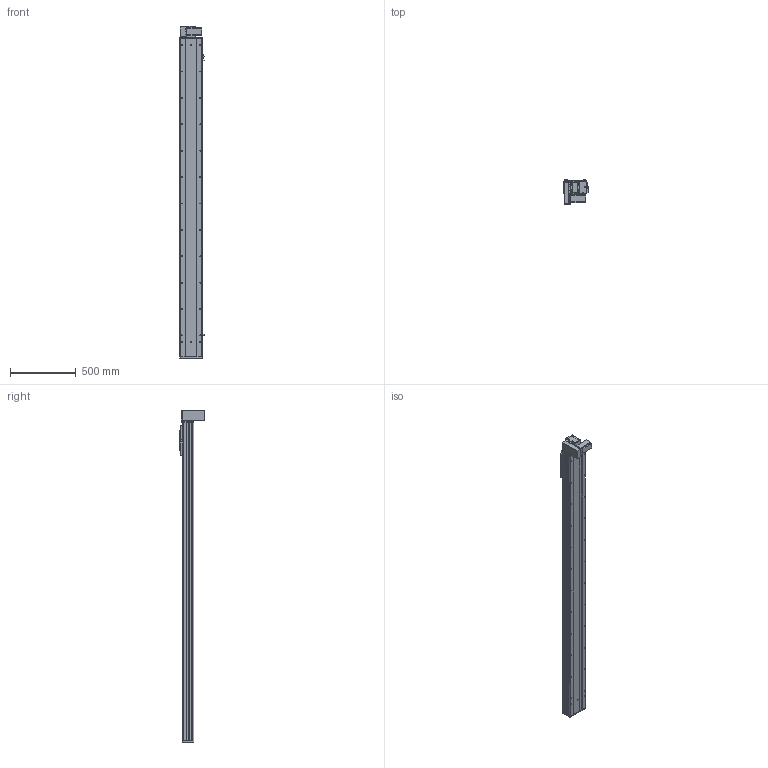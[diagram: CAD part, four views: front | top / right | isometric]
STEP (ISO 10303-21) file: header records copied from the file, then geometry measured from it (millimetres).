
FILE_DESCRIPTION (( 'STEP AP203' ), '1' );
FILE_NAME ('Y170CB-D105-S2200-BM-P400W.STEP', '2020-02-20T07:28:14', ( '微软用户' ), ( '微软中国' ), 'SwSTEP 2.0', 'SolidWorks 2017', '' );
FILE_SCHEMA (( 'CONFIG_CONTROL_DESIGN' ));
Length unit declared in the file: millimetre
Products named in the file (18): 70CB-詩湍--; san松下电机400不带刹车----; Y100-135俋离換覜ん--; 70CB-掛极-; Y170CB-陔俋离換覜結え---; --70CB --喘謫眊楊擘啣-; Y1埴倛裔; 70CB-耜裔啣-; 17B-耜蚾蟀諉啣----; 70C--詩湍揤踡え-; 00B-俋欶BM--163; 70CB--耜裔; 70B喘謫眊----; 70C-雄赽釱-奻-; B-源倛裔啣; Y170CB-D105-S2200-BM-P400W; 0C--雄赽釱俋欶-170; 0B-萇儂楊擘啣
Assembly tree (21 placements, depth 2):
  Y170CB-D105-S2200-BM-P400W
    B-源倛裔啣
    0B-萇儂楊擘啣
    san松下电机400不带刹车----
    70CB-掛极-
    --70CB --喘謫眊楊擘啣-
    70CB-耜裔啣-  x2
    70C--詩湍揤踡え-  x2
    70CB--耜裔
    70C-雄赽釱-奻-
    0C--雄赽釱俋欶-170
    70CB-詩湍--
    Y100-135俋离換覜ん--  x3
    Y170CB-陔俋离換覜結え---
    Y1埴倛裔
    17B-耜蚾蟀諉啣----
    00B-俋欶BM--163
    70B喘謫眊----
Bounding box: 183.5 x 184 x 2516 mm (x, y, z)
Volume: 10869986.1 mm3; surface area: 3920988.6 mm2
Topology: 21 solids, 21 shells, 1055 faces, 2837 edges, 1882 vertices
Faces by surface type: cylinder 569, plane 462, cone 24
Entity records: 33788 total; most frequent: CARTESIAN_POINT 6216, DIRECTION 5498, ORIENTED_EDGE 5156, EDGE_CURVE 2578, AXIS2_PLACEMENT_3D 2028, VERTEX_POINT 1712, LINE 1442, VECTOR 1442
